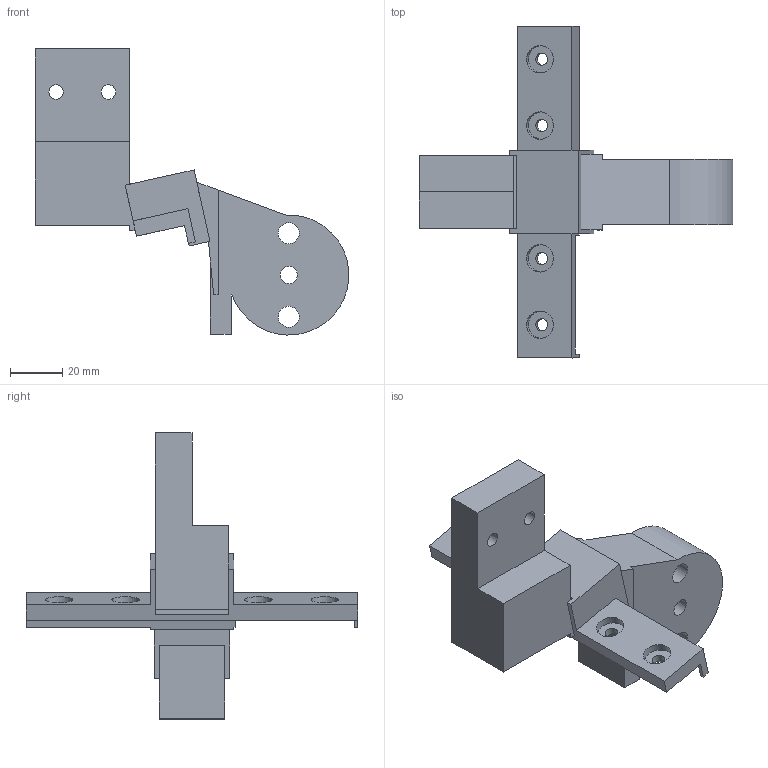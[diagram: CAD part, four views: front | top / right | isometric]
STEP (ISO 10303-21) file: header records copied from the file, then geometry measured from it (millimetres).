
FILE_DESCRIPTION(('Open CASCADE Model'),'2;1');
FILE_NAME('Open CASCADE Shape Model','2026-10-17T22:10:42',('Author'),( 'Open CASCADE'),'Open CASCADE STEP processor 7.9','Open CASCADE 7.9' ,'Unknown');
FILE_SCHEMA(('AUTOMOTIVE_DESIGN { 1 0 10303 214 1 1 1 1 }'));
Length unit declared in the file: millimetre
Products named in the file (1): Open CASCADE STEP translator 7.9 1
Bounding box: 119.93 x 127 x 109.48 mm (x, y, z)
Volume: 135923.6 mm3; surface area: 31130.8 mm2
Topology: 1 solids, 1 shells, 73 faces, 195 edges, 130 vertices
Faces by surface type: plane 59, cylinder 14
Full cylindrical faces by diameter (mm): 4.7 x4, 5.5 x2, 6.6 x1, 8 x2, 10.5 x4
Entity records: 4813 total; most frequent: CARTESIAN_POINT 1012, DIRECTION 648, LINE 438, VECTOR 438, ORIENTED_EDGE 390, PCURVE 390, DEFINITIONAL_REPRESENTATION 390, EDGE_CURVE 195
